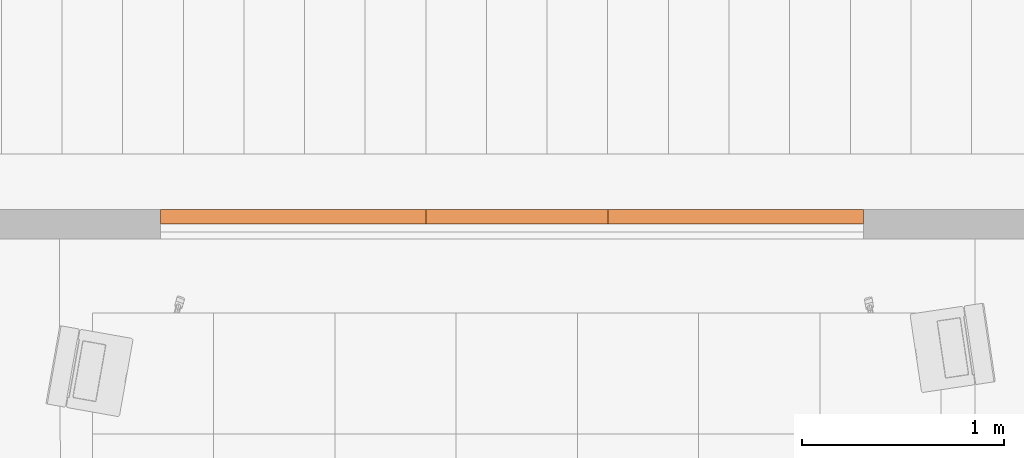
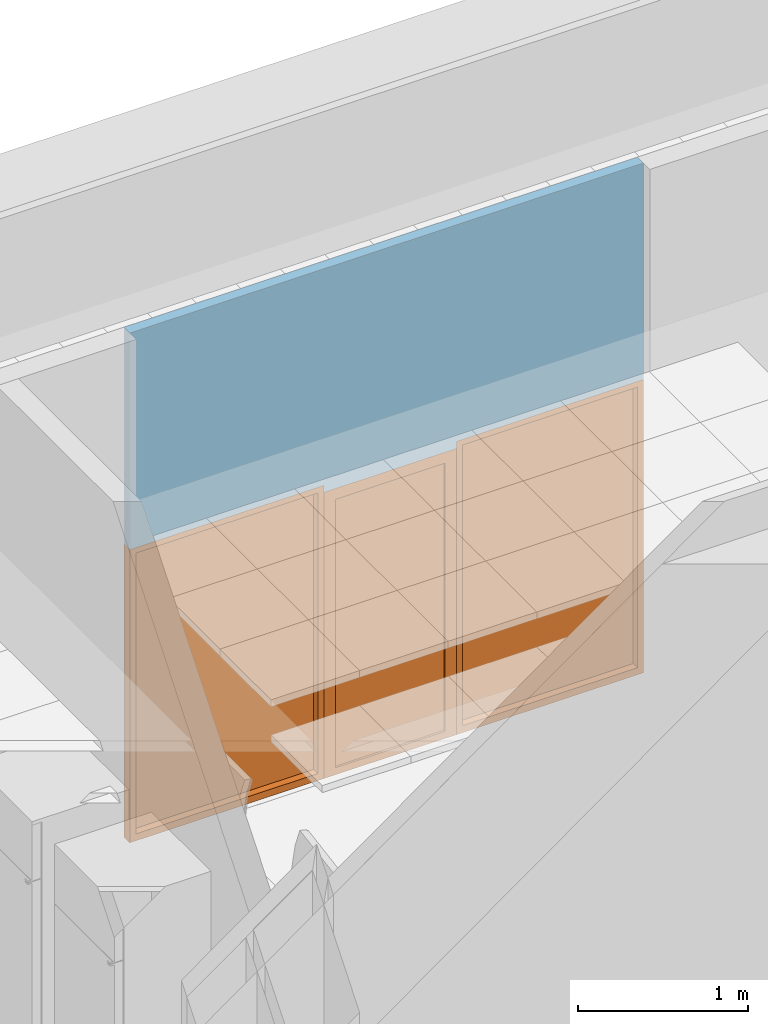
# One storey, part 51 of 60: 3 proxies, 3 openings, plus 1 element that does not belong to this part.
"""IFC2X3 building model written with IfcOpenShell, lengths in millimetres."""

import ifcopenshell
import ifcopenshell.guid

model = None  # the IFC model being written
_history = None  # IfcOwnerHistory: only IFC2X3 demands one
_inside = {}  # id of a spatial element -> (the spatial element, [elements in it])
_under = {}  # id of a project, library or spatial element -> (it, [spatial elements below it])
_declared = {}  # id of a project -> (the project, [libraries it declares])
_typed = {}  # id of a type object -> (the type object, [elements of that type])
_made_of = {}  # id of a material, layer set ... -> (it, [elements and type objects made of it])


def new_model(schema):
    """Start an empty IFC model of exactly this schema.

    Asked for "IFC4X3", IfcOpenShell would pick the latest addendum, in which some entities
    have other attributes; the version numbers below select the first issue.
    IFC2X3 requires an IfcOwnerHistory on every rooted entity: one is made here for all.
    """
    global model, _history
    if schema == "IFC4X3":
        model = ifcopenshell.file(schema_version=(4, 3, 0, 0))
    else:
        model = ifcopenshell.file(schema=schema)
    _inside.clear()
    _under.clear()
    _declared.clear()
    _typed.clear()
    _made_of.clear()
    _history = None
    if model.schema == "IFC2X3":
        org = make("IfcOrganization", Name="unknown")
        user = make(
            "IfcPersonAndOrganization",
            ThePerson=make("IfcPerson", FamilyName="unknown"),
            TheOrganization=org,
        )
        app = make(
            "IfcApplication",
            ApplicationDeveloper=org,
            Version="unknown",
            ApplicationFullName="unknown",
            ApplicationIdentifier="unknown",
        )
        _history = make(
            "IfcOwnerHistory",
            OwningUser=user,
            OwningApplication=app,
            ChangeAction="ADDED",
            CreationDate=0,
        )
    return model


def make(cls, **values):
    """One entity of the class cls with the attributes given. An attribute that is None is left unset."""
    return model.create_entity(
        cls, **{name: value for name, value in values.items() if value is not None}
    )


def entity(cls, *values):
    """Any entity or typed value of the class cls, its attributes in the order of the schema. None: left unset."""
    e = model.create_entity(cls)
    for i, value in enumerate(values):
        if value is not None:
            e[i] = value
    return e


def rooted(cls, **values):
    """An entity with a GlobalId (a new one), such as an element, a storey or a relation."""
    return make(cls, GlobalId=ifcopenshell.guid.new(), OwnerHistory=_history, **values)


def si_unit(unit_type, name, prefix=None):
    """IfcSIUnit, for example si_unit("LENGTHUNIT", "METRE", prefix="MILLI")."""
    return make("IfcSIUnit", UnitType=unit_type, Prefix=prefix, Name=name)


def converted_unit(unit_type, name, factor, base, dimensions=None, offset=None):
    """IfcConversionBasedUnit, such as the inch: factor (a typed value) times the base unit."""
    return make(
        "IfcConversionBasedUnit"
        if offset is None
        else "IfcConversionBasedUnitWithOffset",
        ConversionOffset=offset,
        Dimensions=None
        if dimensions is None
        else entity("IfcDimensionalExponents", *dimensions),
        UnitType=unit_type,
        Name=name,
        ConversionFactor=make(
            "IfcMeasureWithUnit", ValueComponent=factor, UnitComponent=base
        ),
    )


def derived_unit(unit_type, elements):
    """IfcDerivedUnit: a product of units, each with its exponent."""
    return make(
        "IfcDerivedUnit",
        Elements=[
            make("IfcDerivedUnitElement", Unit=unit, Exponent=power)
            for unit, power in elements
        ],
        UnitType=unit_type,
    )


def money_unit(currency):
    """IfcMonetaryUnit."""
    return make("IfcMonetaryUnit", Currency=currency)


def assignment(units):
    """IfcUnitAssignment: the units of a project."""
    return None if units is None else make("IfcUnitAssignment", Units=units)


def point(xyz):
    """IfcCartesianPoint."""
    return None if xyz is None else make("IfcCartesianPoint", Coordinates=xyz)


def direction(xyz):
    """IfcDirection."""
    return None if xyz is None else make("IfcDirection", DirectionRatios=xyz)


def frame(location, z_axis=None, x_axis=None):
    """IfcAxis2Placement3D, a coordinate frame: its origin and axes. An axis left out is left unset."""
    return make(
        "IfcAxis2Placement3D",
        Location=point(location),
        Axis=direction(z_axis),
        RefDirection=direction(x_axis),
    )


def frame_2d(location, x_axis=None):
    """IfcAxis2Placement2D, a coordinate frame in the plane: its origin and x axis."""
    return make(
        "IfcAxis2Placement2D", Location=point(location), RefDirection=direction(x_axis)
    )


def origin_with_axes():
    """The frame at (0, 0, 0) with the z axis (0, 0, 1) and the x axis (1, 0, 0) written out."""
    return frame((0.0, 0.0, 0.0), z_axis=(0.0, 0.0, 1.0), x_axis=(1.0, 0.0, 0.0))


def origin_2d_with_axis():
    """The frame at (0, 0) in the plane with the x axis (1, 0) written out."""
    return frame_2d((0.0, 0.0), x_axis=(1.0, 0.0))


def place(relative_to, where):
    """IfcLocalPlacement: puts the frame where relative to a parent placement (None: the world)."""
    return make(
        "IfcLocalPlacement", PlacementRelTo=relative_to, RelativePlacement=where
    )


def context(
    kind, dimensions, precision=None, world=None, true_north=None, identifier=None
):
    """IfcGeometricRepresentationContext, for example the 3D "Model" context."""
    return make(
        "IfcGeometricRepresentationContext",
        ContextIdentifier=identifier,
        ContextType=kind,
        CoordinateSpaceDimension=dimensions,
        Precision=precision,
        WorldCoordinateSystem=world,
        TrueNorth=true_north,
    )


def subcontext(parent, identifier, kind, view, scale=None):
    """IfcGeometricRepresentationSubContext, for example "Body" below "Model"."""
    return make(
        "IfcGeometricRepresentationSubContext",
        ContextIdentifier=identifier,
        ContextType=kind,
        ParentContext=parent,
        TargetScale=scale,
        TargetView=view,
    )


def project(units=None, contexts=None):
    """IfcProject with its units and contexts."""
    return rooted(
        "IfcProject",
        Name="project",
        RepresentationContexts=contexts,
        UnitsInContext=assignment(units),
    )


def spatial(cls, under=None, at=None, **own):
    """A site, building, storey or space (cls), placed at a placement, below another one or the project."""
    s = rooted(cls, ObjectPlacement=at, **own)
    if under is not None:
        _under.setdefault(under.id(), (under, []))[1].append(s)
    return s


def polyline(points):
    """IfcPolyline through the points."""
    return make("IfcPolyline", Points=[point(p) for p in points])


def profile(cls, at=None, kind="AREA", **sizes):
    """A parametric profile (cls). Its sizes go by their IFC names, for example OverallWidth=200.0."""
    return make(cls, ProfileType=kind, Position=at, **sizes)


def rectangle(**sizes):
    """IfcRectangleProfileDef."""
    return profile("IfcRectangleProfileDef", **sizes)


def outline(outer, holes=None, kind="AREA"):
    """IfcArbitraryClosedProfileDef: a profile drawn as a closed curve; with holes, ...WithVoids."""
    if holes is None:
        return make("IfcArbitraryClosedProfileDef", ProfileType=kind, OuterCurve=outer)
    return make(
        "IfcArbitraryProfileDefWithVoids",
        ProfileType=kind,
        OuterCurve=outer,
        InnerCurves=holes,
    )


def extrude(swept, where, along, depth):
    """IfcExtrudedAreaSolid: the profile swept, set in the frame where, extruded along a direction by depth."""
    return make(
        "IfcExtrudedAreaSolid",
        SweptArea=swept,
        Position=where,
        ExtrudedDirection=direction(along),
        Depth=depth,
    )


def faces_of(points, faces, orient=None, outer=None):
    """IfcFace entities. A face is a list of loops; a loop is a list of indices into points, from 0.

    orient and outer hold one flag for each loop. By default every Orientation is true, the
    first loop of a face is its IfcFaceOuterBound and the others are IfcFaceBound.
    """
    made = []
    for i, loops in enumerate(faces):
        bounds = []
        for j, loop in enumerate(loops):
            is_outer = j == 0 if outer is None else outer[i][j]
            bounds.append(
                make(
                    "IfcFaceOuterBound" if is_outer else "IfcFaceBound",
                    Bound=make("IfcPolyLoop", Polygon=[points[k] for k in loop]),
                    Orientation=True if orient is None else orient[i][j],
                )
            )
        made.append(make("IfcFace", Bounds=bounds))
    return made


def open_shell(faces, orient=None, outer=None):
    """The faces of one IfcOpenShell. surface_model builds it on its shared points."""
    return ("IfcOpenShell", faces, orient, outer)


def faceted_brep(points, faces, orient=None, outer=None, voids=None):
    """IfcFacetedBrep: a solid bounded by flat faces; with voids (closed shells), ...WithVoids."""
    shared = [point(p) for p in points]
    hull = make("IfcClosedShell", CfsFaces=faces_of(shared, faces, orient, outer))
    if voids is None:
        return make("IfcFacetedBrep", Outer=hull)
    return make(
        "IfcFacetedBrepWithVoids",
        Outer=hull,
        Voids=[
            make(cls, CfsFaces=faces_of(shared, fs, o, b)) for cls, fs, o, b in voids
        ],
    )


def surface_model(cls, points, shells):
    """IfcFaceBasedSurfaceModel or IfcShellBasedSurfaceModel (cls): surfaces that need not close."""
    shared = [point(p) for p in points]
    made = [make(c, CfsFaces=faces_of(shared, fs, o, b)) for c, fs, o, b in shells]
    if cls == "IfcFaceBasedSurfaceModel":
        return make(cls, FbsmFaces=made)
    return make(cls, SbsmBoundary=made)


def shape(context_of_items, identifier, shape_type, items):
    """IfcShapeRepresentation: the items that make up one representation, for example the "Body"."""
    return make(
        "IfcShapeRepresentation",
        ContextOfItems=context_of_items,
        RepresentationIdentifier=identifier,
        RepresentationType=shape_type,
        Items=items,
    )


def material(Name=None, Category=None):
    """IfcMaterial."""
    return make("IfcMaterial", Name=Name, Category=Category)


def layer(
    of_material, thickness, ventilated=None, Name=None, Category=None, Priority=None
):
    """IfcMaterialLayer: one layer of a wall or slab, of a material (None: an air gap)."""
    return make(
        "IfcMaterialLayer",
        Material=of_material,
        LayerThickness=thickness,
        IsVentilated=ventilated,
        Name=Name,
        Category=Category,
        Priority=Priority,
    )


def layer_set(layers, Name=None):
    """IfcMaterialLayerSet."""
    return make("IfcMaterialLayerSet", MaterialLayers=layers, LayerSetName=Name)


def layer_usage(for_layer_set, set_direction, sense, offset, extent=None):
    """IfcMaterialLayerSetUsage: how a layer set lies in its element."""
    return make(
        "IfcMaterialLayerSetUsage",
        ForLayerSet=for_layer_set,
        LayerSetDirection=set_direction,
        DirectionSense=sense,
        OffsetFromReferenceLine=offset,
        ReferenceExtent=extent,
    )


def made_of(thing, what):
    """Note that an element or type object is made of a material, layer set ...; save() writes the relation."""
    if what is not None:
        _made_of.setdefault(what.id(), (what, []))[1].append(thing)
    return thing


def type_object(cls, material=None, **own):
    """A type object (cls), such as IfcWallType, which elements share."""
    return made_of(rooted(cls, **own), material)


def element(
    cls,
    number,
    at=None,
    inside=None,
    cuts=None,
    type_object=None,
    material=None,
    context=None,
    identifier="Body",
    shape_type=None,
    held_by="IfcProductDefinitionShape",
    body=None,
    shapes=None,
    **own,
):
    """One element of the class cls, such as IfcWall. Its Tag is "e" and its number.

    at: its placement. inside: the storey or other place that contains it. cuts: it is an
    opening in that element (IfcRelVoidsElement). A single representation is given by context,
    identifier, shape_type and body (its items); several are given by shapes. held_by: the class
    of the entity that holds the representations. save() writes the other relations.
    """
    e = rooted(cls, Tag="e%d" % number, ObjectPlacement=at, **own)
    if body is not None:
        shapes = [shape(context, identifier, shape_type, body)]
    if shapes is not None:
        e.Representation = make(held_by, Representations=shapes)
    if inside is not None:
        _inside.setdefault(inside.id(), (inside, []))[1].append(e)
    if cuts is not None:
        rooted(
            "IfcRelVoidsElement", RelatingBuildingElement=cuts, RelatedOpeningElement=e
        )
    if type_object is not None:
        _typed.setdefault(type_object.id(), (type_object, []))[1].append(e)
    return made_of(e, material)


def fill(opening, filler):
    """IfcRelFillsElement: the door or window that sits in an opening."""
    return rooted(
        "IfcRelFillsElement",
        RelatingOpeningElement=opening,
        RelatedBuildingElement=filler,
    )


def aggregate(whole, parts):
    """IfcRelAggregates: a whole, such as a stair, and the parts it consists of."""
    return rooted("IfcRelAggregates", RelatingObject=whole, RelatedObjects=parts)


def save(model, path):
    """Write the relations noted so far, then the file.

    IfcRelAggregates (storeys below a building ...), IfcRelContainedInSpatialStructure (elements
    in a storey), IfcRelDefinesByType, IfcRelAssociatesMaterial and IfcRelDeclares: one each for
    every whole, place, type object, material and project.
    """
    for whole, parts in _under.values():
        aggregate(whole, parts)
    for where, things in _inside.values():
        rooted(
            "IfcRelContainedInSpatialStructure",
            RelatedElements=things,
            RelatingStructure=where,
        )
    for kind, things in _typed.values():
        rooted("IfcRelDefinesByType", RelatedObjects=things, RelatingType=kind)
    for what, things in _made_of.values():
        rooted("IfcRelAssociatesMaterial", RelatedObjects=things, RelatingMaterial=what)
    for by, libraries in _declared.values():
        rooted("IfcRelDeclares", RelatingContext=by, RelatedDefinitions=libraries)
    model.write(path)


model = new_model("IFC2X3")

# Units and contexts
model_context = context("Model", 3, precision=0.01, world=origin_with_axes(), true_north=direction((0.0, 1.0)))
body_context = subcontext(model_context, "Body", "Model", "MODEL_VIEW")
ifc_project = project(units=[si_unit("LENGTHUNIT", "METRE", prefix="MILLI"), si_unit("AREAUNIT", "SQUARE_METRE"), si_unit("VOLUMEUNIT", "CUBIC_METRE"), converted_unit("PLANEANGLEUNIT", "DEGREE", entity("IfcPlaneAngleMeasure", 0.0174532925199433), si_unit("PLANEANGLEUNIT", "RADIAN"), dimensions=[0, 0, 0, 0, 0, 0, 0]), money_unit("USD"), converted_unit("TIMEUNIT", "Year", entity("IfcTimeMeasure", 31557600.0), si_unit("TIMEUNIT", "SECOND"), dimensions=[0, 0, 1, 0, 0, 0, 0]), si_unit("MASSUNIT", "GRAM", prefix="KILO"), si_unit("THERMODYNAMICTEMPERATUREUNIT", "DEGREE_CELSIUS"), si_unit("LUMINOUSINTENSITYUNIT", "LUMEN"), si_unit("ENERGYUNIT", "JOULE", prefix="MEGA"), derived_unit("THERMALCONDUCTANCEUNIT", [(si_unit("POWERUNIT", "WATT"), 1), (si_unit("LENGTHUNIT", "METRE"), -1), (si_unit("THERMODYNAMICTEMPERATUREUNIT", "KELVIN"), -1)]), derived_unit("SPECIFICHEATCAPACITYUNIT", [(si_unit("ENERGYUNIT", "JOULE"), 1), (si_unit("MASSUNIT", "GRAM", prefix="KILO"), -1), (si_unit("THERMODYNAMICTEMPERATUREUNIT", "KELVIN"), -1)]), derived_unit("MASSDENSITYUNIT", [(si_unit("MASSUNIT", "GRAM", prefix="KILO"), 1), (si_unit("VOLUMEUNIT", "CUBIC_METRE"), -1)])], contexts=[model_context])

# Site, building, storey
site_placement = place(None, origin_with_axes())
site = spatial("IfcSite", under=ifc_project, at=site_placement, Name="Sitio", CompositionType="ELEMENT")
building_placement = place(site_placement, origin_with_axes())
building = spatial("IfcBuilding", under=site, at=building_placement, Name="Construcción", CompositionType="ELEMENT")
storey_placement = place(building_placement, frame((0.0, 0.0, 3650.0), z_axis=(0.0, 0.0, 1.0), x_axis=(1.0, 0.0, 0.0)))
storey = spatial("IfcBuildingStorey", under=building, at=storey_placement, Name="PLANTA 2ª", CompositionType="ELEMENT", Elevation=3650.0)

# Wall, openings, proxies
ifc_material_1 = material(Name="Panel de Yeso Laminado")
ifc_layer_1 = layer(ifc_material_1, 5.0, ventilated="UNKNOWN")
ifc_material_2 = material(Name="ARQ_AI033_Aillament_Llana_De_Roca")
ifc_layer_2 = layer(ifc_material_2, 60.0, ventilated="UNKNOWN")
ifc_layer_3 = layer(ifc_material_1, 5.0, ventilated="UNKNOWN")
ifc_layer_set = layer_set([ifc_layer_1, ifc_layer_2, ifc_layer_3], Name="CR- MAMPARA")
ifc_layer_usage = layer_usage(ifc_layer_set, "AXIS2", "NEGATIVE", 0.0)
wall_type = type_object("IfcWallType", Name="CR- MAMPARA 70", PredefinedType="NOTDEFINED")
wall_placement = place(storey_placement, frame((-8005.107268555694, 2039.554870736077, 0.0), z_axis=(0.0, 0.0, 1.0), x_axis=(-1.0, 0.0, 0.0)))
wall = element("IfcWallStandardCase", 1, at=wall_placement, inside=storey, type_object=wall_type, material=ifc_layer_usage, Name="MS-211", context=body_context, shape_type="SweptSolid", body=[
    extrude(outline(polyline([(0.0, -69.99999999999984), (3477.728222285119, -69.99999999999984), (3477.728222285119, 0.0), (0.0, 0.0), (0.0, -69.99999999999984)])), origin_with_axes(), (0.0, 0.0, 1.0), 3650.0),
])
opening_1_placement = place(wall_placement, frame((631.9320555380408, 0.0, 0.0), z_axis=(0.0, 0.0, 1.0), x_axis=(1.0, 0.0, 0.0)))
opening_1 = element("IfcOpeningElement", 2, at=opening_1_placement, cuts=wall, Name="M-15", context=body_context, shape_type="SweptSolid", body=[
    extrude(rectangle(XDim=1263.864111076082, YDim=2100.0, at=origin_2d_with_axis()), frame((0.0, 70.00000000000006, 1050.0), z_axis=(0.0, -1.0, 0.0), x_axis=(-1.0, 0.0, 0.0)), (0.0, 0.0, 1.0), 210.0),
])
opening_2_placement = place(wall_placement, frame((1713.864111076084, 0.0, 0.0), z_axis=(0.0, 0.0, 1.0), x_axis=(1.0, 0.0, 0.0)))
opening_2 = element("IfcOpeningElement", 3, at=opening_2_placement, cuts=wall, Name="PM-3", context=body_context, shape_type="SweptSolid", body=[
    extrude(rectangle(XDim=899.9999999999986, YDim=2050.0, at=origin_2d_with_axis()), frame((0.0, -69.99999999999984, 1025.0), z_axis=(0.0, 1.0, 0.0), x_axis=(1.0, 0.0, 0.0)), (0.0, 0.0, 1.0), 210.0),
])
opening_3_placement = place(wall_placement, frame((2820.796166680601, 0.0, 0.0), z_axis=(0.0, 0.0, 1.0), x_axis=(1.0, 0.0, 0.0)))
opening_3 = element("IfcOpeningElement", 4, at=opening_3_placement, cuts=wall, Name="M-14", context=body_context, shape_type="SweptSolid", body=[
    extrude(rectangle(XDim=1313.864111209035, YDim=2100.0, at=origin_2d_with_axis()), frame((0.0, 70.00000000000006, 1050.0), z_axis=(0.0, -1.0, 0.0), x_axis=(-1.0, 0.0, 0.0)), (0.0, 0.0, 1.0), 210.0),
])
building_element_proxy_type_1 = type_object("IfcBuildingElementProxyType", Name="Ventana Escaparate 27", PredefinedType="NOTDEFINED")
proxy_1_placement = place(opening_3_placement, frame((656.9320556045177, 0.0, 0.0), z_axis=(0.0, 0.0, 1.0), x_axis=(-1.0, 0.0, 0.0)))
proxy_1 = element("IfcBuildingElementProxy", 5, at=proxy_1_placement, inside=storey, type_object=building_element_proxy_type_1, Name="M-14", context=body_context, shape_type="Brep", body=[
    faceted_brep([(0.0, 70.00000000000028, 2060.0), (0.0, 70.00000000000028, 49.99999999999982), (0.0, 0.0, 49.99999999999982), (0.0, 0.0, 2060.0), (40.00000000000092, 70.00000000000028, 2060.0), (40.00000000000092, 70.00000000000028, 49.99999999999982), (40.00000000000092, 0.0, 49.99999999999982), (40.00000000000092, 0.0, 2060.0)], [[[0, 1, 2, 3]], [[0, 4, 5, 1]], [[1, 5, 6, 2]], [[3, 2, 6, 7]], [[4, 0, 3, 7]], [[5, 4, 7, 6]]]),
    faceted_brep([(1313.864111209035, 70.00000000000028, 49.99999999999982), (1313.864111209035, 69.99999999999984, 2060.0), (1313.864111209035, 0.0, 2060.0), (1313.864111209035, 0.0, 49.99999999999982), (1273.864111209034, 70.00000000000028, 49.99999999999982), (1273.864111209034, 69.99999999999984, 2060.0), (1273.864111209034, 0.0, 2060.0), (1273.864111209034, 0.0, 49.99999999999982)], [[[0, 1, 2, 3]], [[0, 4, 5, 1]], [[1, 5, 6, 2]], [[3, 2, 6, 7]], [[4, 0, 3, 7]], [[5, 4, 7, 6]]]),
    faceted_brep([(1313.864111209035, 69.99999999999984, 2100.0), (0.0, 70.00000000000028, 2100.0), (0.0, 0.0, 2100.0), (1313.864111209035, 0.0, 2100.0), (1313.864111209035, 69.99999999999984, 2060.0), (1273.864111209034, 69.99999999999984, 2060.0), (40.00000000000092, 70.00000000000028, 2060.0), (0.0, 70.00000000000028, 2060.0), (0.0, 0.0, 2060.0), (40.00000000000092, 0.0, 2060.0), (1273.864111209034, 0.0, 2060.0), (1313.864111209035, 0.0, 2060.0)], [[[0, 1, 2, 3]], [[0, 4, 5, 6, 7, 1]], [[1, 7, 8, 2]], [[3, 2, 8, 9, 10, 11]], [[4, 0, 3, 11]], [[5, 4, 11, 10]], [[6, 5, 10, 9]], [[7, 6, 9, 8]]]),
    faceted_brep([(1313.864111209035, 70.00000000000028, 49.99999999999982), (1273.864111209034, 70.00000000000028, 49.99999999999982), (1273.864111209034, 0.0, 49.99999999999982), (1313.864111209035, 0.0, 49.99999999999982), (1313.864111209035, 70.00000000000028, 0.0), (0.0, 70.00000000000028, 0.0), (0.0, 70.00000000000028, 49.99999999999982), (40.00000000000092, 70.00000000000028, 49.99999999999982), (40.00000000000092, 0.0, 49.99999999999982), (0.0, 0.0, 49.99999999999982), (0.0, 0.0, 0.0), (1313.864111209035, 0.0, 0.0)], [[[0, 1, 2, 3]], [[0, 4, 5, 6, 7, 1]], [[1, 7, 8, 2]], [[3, 2, 8, 9, 10, 11]], [[4, 0, 3, 11]], [[5, 4, 11, 10]], [[6, 5, 10, 9]], [[7, 6, 9, 8]]]),
    faceted_brep([(40.00000000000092, 60.0000000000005, 49.99999999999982), (1273.864111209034, 60.00000000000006, 49.99999999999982), (1273.864111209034, 50.00000000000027, 49.99999999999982), (40.00000000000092, 50.00000000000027, 49.99999999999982), (40.00000000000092, 60.0000000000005, 2060.0), (1273.864111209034, 60.00000000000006, 2060.0), (1273.864111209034, 49.99999999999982, 2060.0), (40.00000000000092, 50.00000000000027, 2060.0)], [[[0, 1, 2, 3]], [[0, 4, 5, 1]], [[1, 5, 6, 2]], [[3, 2, 6, 7]], [[4, 0, 3, 7]], [[5, 4, 7, 6]]]),
])
fill(opening_3, proxy_1)
proxy_2_placement = place(opening_1_placement, frame((631.9320555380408, 0.0, 0.0), z_axis=(0.0, 0.0, 1.0), x_axis=(-1.0, 0.0, 0.0)))
proxy_2 = element("IfcBuildingElementProxy", 6, at=proxy_2_placement, inside=storey, type_object=building_element_proxy_type_1, Name="M-15", context=body_context, shape_type="Brep", body=[
    faceted_brep([(0.0, 69.99999999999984, 2060.0), (0.0, 69.99999999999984, 49.99999999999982), (0.0, 0.0, 49.99999999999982), (0.0, 0.0, 2060.0), (39.99999999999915, 69.99999999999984, 2060.0), (39.99999999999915, 69.99999999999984, 49.99999999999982), (39.99999999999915, 0.0, 49.99999999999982), (39.99999999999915, 0.0, 2060.0)], [[[0, 1, 2, 3]], [[0, 4, 5, 1]], [[1, 5, 6, 2]], [[3, 2, 6, 7]], [[4, 0, 3, 7]], [[5, 4, 7, 6]]]),
    faceted_brep([(1263.864111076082, 69.99999999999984, 49.99999999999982), (1263.864111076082, 69.9999999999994, 2060.0), (1263.864111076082, 0.0, 2060.0), (1263.864111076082, 0.0, 49.99999999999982), (1223.864111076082, 69.99999999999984, 49.99999999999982), (1223.864111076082, 69.9999999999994, 2060.0), (1223.864111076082, 0.0, 2060.0), (1223.864111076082, 0.0, 49.99999999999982)], [[[0, 1, 2, 3]], [[0, 4, 5, 1]], [[1, 5, 6, 2]], [[3, 2, 6, 7]], [[4, 0, 3, 7]], [[5, 4, 7, 6]]]),
    faceted_brep([(1263.864111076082, 69.9999999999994, 2100.0), (0.0, 69.99999999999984, 2100.0), (0.0, 0.0, 2100.0), (1263.864111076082, 0.0, 2100.0), (1263.864111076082, 69.9999999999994, 2060.0), (1223.864111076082, 69.9999999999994, 2060.0), (39.99999999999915, 69.99999999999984, 2060.0), (0.0, 69.99999999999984, 2060.0), (0.0, 0.0, 2060.0), (39.99999999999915, 0.0, 2060.0), (1223.864111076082, 0.0, 2060.0), (1263.864111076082, 0.0, 2060.0)], [[[0, 1, 2, 3]], [[0, 4, 5, 6, 7, 1]], [[1, 7, 8, 2]], [[3, 2, 8, 9, 10, 11]], [[4, 0, 3, 11]], [[5, 4, 11, 10]], [[6, 5, 10, 9]], [[7, 6, 9, 8]]]),
    faceted_brep([(1263.864111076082, 69.99999999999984, 49.99999999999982), (1223.864111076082, 69.99999999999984, 49.99999999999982), (1223.864111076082, 0.0, 49.99999999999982), (1263.864111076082, 0.0, 49.99999999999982), (1263.864111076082, 69.99999999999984, 0.0), (0.0, 69.99999999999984, 0.0), (0.0, 69.99999999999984, 49.99999999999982), (39.99999999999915, 69.99999999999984, 49.99999999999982), (39.99999999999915, 0.0, 49.99999999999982), (0.0, 0.0, 49.99999999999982), (0.0, 0.0, 0.0), (1263.864111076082, 0.0, 0.0)], [[[0, 1, 2, 3]], [[0, 4, 5, 6, 7, 1]], [[1, 7, 8, 2]], [[3, 2, 8, 9, 10, 11]], [[4, 0, 3, 11]], [[5, 4, 11, 10]], [[6, 5, 10, 9]], [[7, 6, 9, 8]]]),
    faceted_brep([(39.99999999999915, 60.00000000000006, 49.99999999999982), (1223.864111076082, 59.99999999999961, 49.99999999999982), (1223.864111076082, 49.99999999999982, 49.99999999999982), (39.99999999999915, 49.99999999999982, 49.99999999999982), (39.99999999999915, 60.00000000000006, 2060.0), (1223.864111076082, 59.99999999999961, 2060.0), (1223.864111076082, 49.99999999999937, 2060.0), (39.99999999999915, 49.99999999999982, 2060.0)], [[[0, 1, 2, 3]], [[0, 4, 5, 1]], [[1, 5, 6, 2]], [[3, 2, 6, 7]], [[4, 0, 3, 7]], [[5, 4, 7, 6]]]),
])
fill(opening_1, proxy_2)
building_element_proxy_type_2 = type_object("IfcBuildingElementProxyType", Name="Puerta 27", PredefinedType="NOTDEFINED")
proxy_3_placement = place(opening_2_placement, frame((-449.9999999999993, 0.0, 0.0), z_axis=(0.0, 0.0, 1.0), x_axis=(1.0, 0.0, 0.0)))
proxy_3 = element("IfcBuildingElementProxy", 7, at=proxy_3_placement, inside=storey, type_object=building_element_proxy_type_2, Name="PM-3", context=body_context, shape_type="SurfaceModel", body=[
    faceted_brep([(39.99999999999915, -40.00000000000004, 0.0), (39.99999999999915, -40.00000000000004, 2010.0), (39.99999999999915, -69.99999999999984, 2010.0), (39.99999999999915, -69.99999999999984, 0.0), (27.99999999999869, -40.00000000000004, 2010.0), (27.99999999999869, -40.00000000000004, 0.0), (27.99999999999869, 0.0, 2010.0), (0.0, 0.0, 2010.0), (0.0, -69.99999999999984, 2010.0), (0.0, -69.99999999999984, 0.0), (0.0, 0.0, 0.0), (27.99999999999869, 0.0, 0.0)], [[[0, 1, 2, 3]], [[4, 1, 0, 5]], [[4, 6, 7, 8, 2, 1]], [[3, 2, 8, 9]], [[5, 0, 3, 9, 10, 11]], [[6, 4, 5, 11]], [[6, 11, 10, 7]], [[10, 9, 8, 7]]]),
    faceted_brep([(871.9999999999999, -40.00000000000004, 2010.0), (859.9999999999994, -40.00000000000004, 2010.0), (859.9999999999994, -69.99999999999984, 2010.0), (899.9999999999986, -69.99999999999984, 2010.0), (899.9999999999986, 0.0, 2010.0), (871.9999999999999, 0.0, 2010.0), (871.9999999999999, -40.00000000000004, 0.0), (859.9999999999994, -40.00000000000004, 0.0), (859.9999999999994, -69.99999999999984, 0.0), (899.9999999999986, -69.99999999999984, 0.0), (899.9999999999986, 0.0, 0.0), (871.9999999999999, 0.0, 0.0)], [[[0, 1, 2, 3, 4, 5]], [[1, 0, 6, 7]], [[1, 7, 8, 2]], [[3, 2, 8, 9]], [[4, 3, 9, 10]], [[11, 5, 4, 10]], [[0, 5, 11, 6]], [[6, 11, 10, 9, 8, 7]]]),
    faceted_brep([(27.99999999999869, 0.0, 2022.0), (27.99999999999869, 0.0, 2010.0), (0.0, 0.0, 2010.0), (0.0, 0.0, 2050.0), (899.9999999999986, 0.0, 2050.0), (899.9999999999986, 0.0, 2010.0), (871.9999999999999, 0.0, 2010.0), (871.9999999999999, 0.0, 2022.0), (27.99999999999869, -40.00000000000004, 2022.0), (27.99999999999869, -40.00000000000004, 2010.0), (39.99999999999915, -40.00000000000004, 2010.0), (39.99999999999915, -69.99999999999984, 2010.0), (0.0, -69.99999999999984, 2010.0), (0.0, -69.99999999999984, 2050.0), (899.9999999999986, -69.99999999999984, 2050.0), (899.9999999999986, -69.99999999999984, 2010.0), (871.9999999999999, -40.00000000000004, 2010.0), (859.9999999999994, -69.99999999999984, 2010.0), (859.9999999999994, -40.00000000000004, 2010.0), (871.9999999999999, -40.00000000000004, 2022.0)], [[[0, 1, 2, 3, 4, 5, 6, 7]], [[1, 0, 8, 9]], [[9, 10, 11, 12, 2, 1]], [[2, 12, 13, 3]], [[3, 13, 14, 4]], [[4, 14, 15, 5]], [[16, 6, 5, 15, 17, 18]], [[7, 6, 16, 19]], [[0, 7, 19, 8]], [[16, 18, 10, 9, 8, 19]], [[10, 18, 17, 11]], [[17, 15, 14, 13, 12, 11]]]),
    faceted_brep([(871.9999999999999, 0.0, 49.99999999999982), (871.9999999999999, -40.00000000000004, 49.99999999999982), (821.9999999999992, -40.00000000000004, 49.99999999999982), (821.9999999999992, 0.0, 49.99999999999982), (871.9999999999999, 0.0, 1972.0), (871.9999999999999, -40.00000000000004, 1972.0), (821.9999999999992, -40.00000000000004, 1972.0), (821.9999999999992, 0.0, 1972.0)], [[[0, 1, 2, 3]], [[4, 5, 1, 0]], [[1, 5, 6, 2]], [[3, 2, 6, 7]], [[0, 3, 7, 4]], [[7, 6, 5, 4]]]),
    faceted_brep([(27.99999999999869, 0.0, 49.99999999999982), (27.99999999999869, -40.00000000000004, 49.99999999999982), (27.99999999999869, -40.00000000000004, 1972.0), (27.99999999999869, 0.0, 1972.0), (77.9999999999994, 0.0, 49.99999999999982), (77.9999999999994, -40.00000000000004, 49.99999999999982), (77.9999999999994, -40.00000000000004, 1972.0), (77.9999999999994, 0.0, 1972.0)], [[[0, 1, 2, 3]], [[4, 5, 1, 0]], [[1, 5, 6, 2]], [[3, 2, 6, 7]], [[0, 3, 7, 4]], [[7, 6, 5, 4]]]),
    faceted_brep([(871.9999999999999, 0.0, 0.0), (871.9999999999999, -40.00000000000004, 0.0), (27.99999999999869, -40.00000000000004, 0.0), (27.99999999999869, 0.0, 0.0), (871.9999999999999, 0.0, 49.99999999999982), (871.9999999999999, -40.00000000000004, 49.99999999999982), (821.9999999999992, -40.00000000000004, 49.99999999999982), (77.9999999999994, -40.00000000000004, 49.99999999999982), (27.99999999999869, -40.00000000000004, 49.99999999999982), (27.99999999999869, 0.0, 49.99999999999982), (77.9999999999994, 0.0, 49.99999999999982), (821.9999999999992, 0.0, 49.99999999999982)], [[[0, 1, 2, 3]], [[4, 5, 1, 0]], [[1, 5, 6, 7, 8, 2]], [[3, 2, 8, 9]], [[0, 3, 9, 10, 11, 4]], [[11, 6, 5, 4]], [[10, 7, 6, 11]], [[9, 8, 7, 10]]]),
    faceted_brep([(871.9999999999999, 0.0, 2022.0), (871.9999999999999, -40.00000000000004, 2022.0), (871.9999999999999, -40.00000000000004, 1972.0), (871.9999999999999, 0.0, 1972.0), (27.99999999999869, 0.0, 2022.0), (27.99999999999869, -40.00000000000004, 2022.0), (27.99999999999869, -40.00000000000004, 1972.0), (77.9999999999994, -40.00000000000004, 1972.0), (821.9999999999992, -40.00000000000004, 1972.0), (821.9999999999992, 0.0, 1972.0), (77.9999999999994, 0.0, 1972.0), (27.99999999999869, 0.0, 1972.0)], [[[0, 1, 2, 3]], [[4, 5, 1, 0]], [[1, 5, 6, 7, 8, 2]], [[3, 2, 8, 9]], [[0, 3, 9, 10, 11, 4]], [[11, 6, 5, 4]], [[10, 7, 6, 11]], [[9, 8, 7, 10]]]),
    surface_model("IfcShellBasedSurfaceModel", [(821.9999999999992, -14.00000000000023, 49.99999999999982), (77.9999999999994, -13.99999999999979, 49.99999999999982), (77.9999999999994, -13.99999999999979, 1972.0), (821.9999999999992, -13.99999999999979, 1972.0)], [open_shell([[[0, 1, 2, 3]]])]),
    surface_model("IfcShellBasedSurfaceModel", [(821.9999999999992, -26.00000000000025, 49.99999999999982), (821.9999999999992, -25.9999999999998, 1972.0), (77.9999999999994, -25.9999999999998, 1972.0), (77.9999999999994, -25.9999999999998, 49.99999999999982)], [open_shell([[[0, 1, 2, 3]]])]),
])
fill(opening_2, proxy_3)

save(model, "model.ifc")
